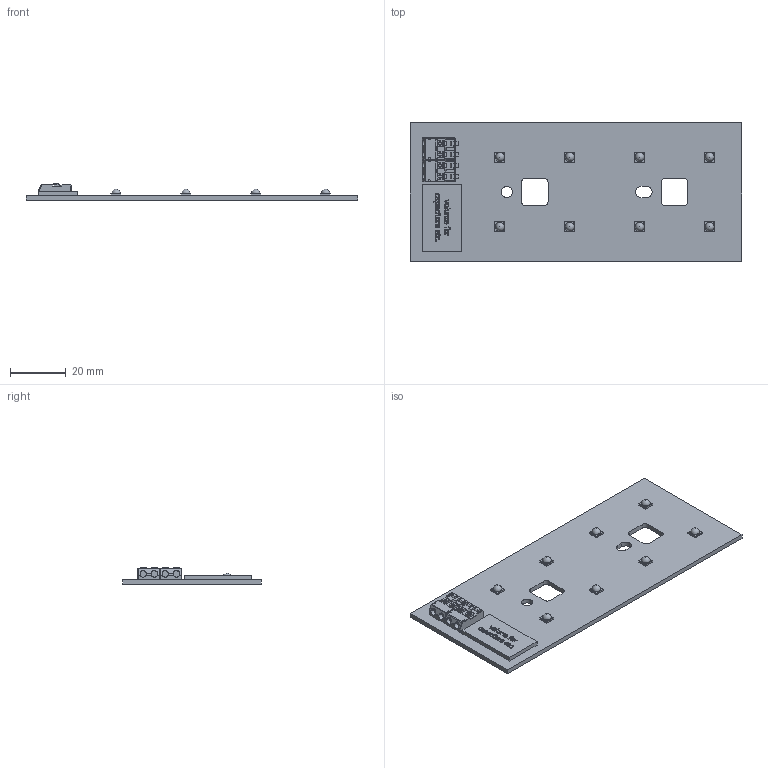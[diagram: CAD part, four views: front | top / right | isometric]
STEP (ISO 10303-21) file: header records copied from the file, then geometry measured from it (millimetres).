
FILE_DESCRIPTION(/* description */ (''),/* implementation_level */ '2;1');
FILE_NAME(/* name */ 'C:\FastFlex 2x4 Gen4.stp',/* time_stamp */ '2019-01-17T13:19:33+01:00',/* author */ ('nlv21627'),/* organization */ (''),/* preprocessor_version */ 'ST-DEVELOPER v16.5',/* originating_system */ 'Autodesk Inventor 2017',/* authorisation */ '');
FILE_SCHEMA (('AUTOMOTIVE_DESIGN { 1 0 10303 214 3 1 1 }'));
Length unit declared in the file: millimetre
Products named in the file (1): 4422-409-64330_simplified
Bounding box: 118.5 x 49.5 x 5.95 mm (x, y, z)
Volume: 10894.2 mm3; surface area: 13005.4 mm2
Topology: 1 solids, 33 shells, 1363 faces, 3676 edges, 2390 vertices
Faces by surface type: plane 809, cylinder 255, bspline 199, torus 48, cone 44, sphere 8
Full cylindrical faces by diameter (mm): 0.1 x32, 4 x1
Entity records: 45732 total; most frequent: CARTESIAN_POINT 12124, ORIENTED_EDGE 7078, DIRECTION 6094, EDGE_CURVE 3539, LINE 2534, VECTOR 2534, VERTEX_POINT 2334, AXIS2_PLACEMENT_3D 1780
